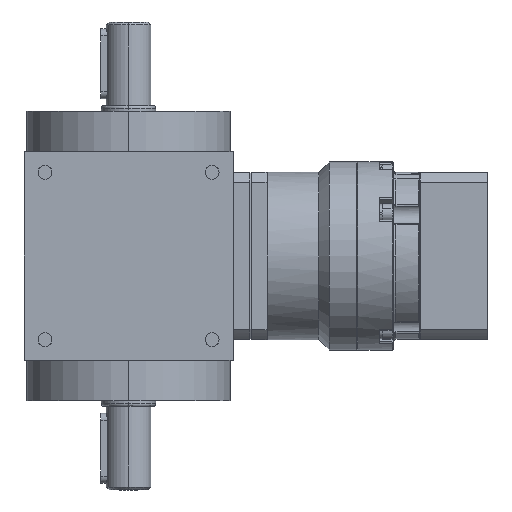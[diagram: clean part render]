
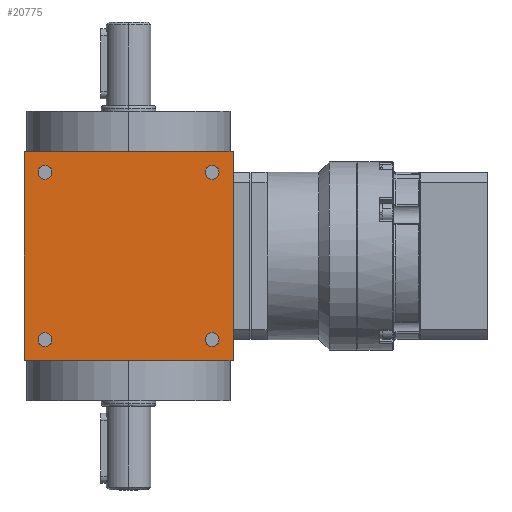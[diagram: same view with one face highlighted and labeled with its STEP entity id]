
A CAD part, left-side view. The second image highlights one B-rep face of the part: STEP entity #20775.
In plain terms, the highlighted planar face has unit normal (-1, 0, 0).
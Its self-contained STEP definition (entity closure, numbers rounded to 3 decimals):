
#453 = DIRECTION ( 'NONE',  ( 0., 0., 1. ) ) ;
#529 = DIRECTION ( 'NONE',  ( 0., -1., 0. ) ) ;
#769 = EDGE_CURVE ( 'NONE', #32938, #11990, #22045, .T. ) ;
#1215 = FACE_BOUND ( 'NONE', #24431, .T. ) ;
#1546 = EDGE_LOOP ( 'NONE', ( #19009, #24279 ) ) ;
#1626 = CIRCLE ( 'NONE', #41033, 2.5 ) ;
#1652 = CARTESIAN_POINT ( 'NONE',  ( -37.5, 30., 30. ) ) ;
#2067 = DIRECTION ( 'NONE',  ( 1., 0., 0. ) ) ;
#2099 = FACE_BOUND ( 'NONE', #1546, .T. ) ;
#2261 = EDGE_LOOP ( 'NONE', ( #30410, #24052 ) ) ;
#2318 = AXIS2_PLACEMENT_3D ( 'NONE', #34526, #44566, #26787 ) ;
#2673 = VERTEX_POINT ( 'NONE', #16382 ) ;
#2939 = DIRECTION ( 'NONE',  ( 1., 0., 0. ) ) ;
#3296 = EDGE_CURVE ( 'NONE', #32416, #38630, #6183, .T. ) ;
#3693 = CARTESIAN_POINT ( 'NONE',  ( -37.5, -30., 27.5 ) ) ;
#4215 = CARTESIAN_POINT ( 'NONE',  ( -37.5, -37.5, -37.5 ) ) ;
#4234 = CARTESIAN_POINT ( 'NONE',  ( -37.5, -30., -32.5 ) ) ;
#4528 = CARTESIAN_POINT ( 'NONE',  ( -37.5, 37.5, 37.5 ) ) ;
#4827 = CARTESIAN_POINT ( 'NONE',  ( -37.5, 30., -32.5 ) ) ;
#4831 = CARTESIAN_POINT ( 'NONE',  ( -37.5, 30., 32.5 ) ) ;
#5214 = CARTESIAN_POINT ( 'NONE',  ( -37.5, 30., -30. ) ) ;
#5336 = DIRECTION ( 'NONE',  ( 1., 0., 0. ) ) ;
#5460 = DIRECTION ( 'NONE',  ( 0., 0., 1. ) ) ;
#5991 = DIRECTION ( 'NONE',  ( 1., 0., 0. ) ) ;
#6183 = CIRCLE ( 'NONE', #36848, 2.5 ) ;
#6912 = CIRCLE ( 'NONE', #12000, 2.5 ) ;
#7161 = CARTESIAN_POINT ( 'NONE',  ( -37.5, 0., 37.5 ) ) ;
#7799 = ORIENTED_EDGE ( 'NONE', *, *, #22491, .F. ) ;
#8216 = VERTEX_POINT ( 'NONE', #37897 ) ;
#8297 = DIRECTION ( 'NONE',  ( 0., 0., 1. ) ) ;
#8676 = EDGE_CURVE ( 'NONE', #22706, #12740, #23694, .T. ) ;
#9739 = CARTESIAN_POINT ( 'NONE',  ( -37.5, -30., -27.5 ) ) ;
#10799 = CARTESIAN_POINT ( 'NONE',  ( -37.5, 0., -37.5 ) ) ;
#11219 = AXIS2_PLACEMENT_3D ( 'NONE', #29330, #36183, #8297 ) ;
#11425 = EDGE_CURVE ( 'NONE', #12191, #16800, #15149, .T. ) ;
#11990 = VERTEX_POINT ( 'NONE', #9739 ) ;
#12000 = AXIS2_PLACEMENT_3D ( 'NONE', #20583, #2067, #19672 ) ;
#12191 = VERTEX_POINT ( 'NONE', #32776 ) ;
#12226 = EDGE_CURVE ( 'NONE', #11990, #32938, #45139, .T. ) ;
#12638 = EDGE_CURVE ( 'NONE', #2673, #30292, #1626, .T. ) ;
#12740 = VERTEX_POINT ( 'NONE', #45181 ) ;
#13371 = EDGE_CURVE ( 'NONE', #8216, #12740, #35535, .T. ) ;
#13987 = LINE ( 'NONE', #10799, #33017 ) ;
#15149 = CIRCLE ( 'NONE', #42154, 2.5 ) ;
#16032 = CARTESIAN_POINT ( 'NONE',  ( -37.5, 37.5, -37.5 ) ) ;
#16382 = CARTESIAN_POINT ( 'NONE',  ( -37.5, -30., 32.5 ) ) ;
#16800 = VERTEX_POINT ( 'NONE', #4827 ) ;
#16889 = CARTESIAN_POINT ( 'NONE',  ( -37.5, 30., -30. ) ) ;
#18611 = DIRECTION ( 'NONE',  ( 0., 0., 1. ) ) ;
#18703 = EDGE_LOOP ( 'NONE', ( #7799, #31541, #33302, #28489 ) ) ;
#19009 = ORIENTED_EDGE ( 'NONE', *, *, #20820, .T. ) ;
#19399 = DIRECTION ( 'NONE',  ( 0., 0., 1. ) ) ;
#19617 = AXIS2_PLACEMENT_3D ( 'NONE', #22498, #5336, #18611 ) ;
#19672 = DIRECTION ( 'NONE',  ( 0., 0., 1. ) ) ;
#20583 = CARTESIAN_POINT ( 'NONE',  ( -37.5, -30., 30. ) ) ;
#20775 = ADVANCED_FACE ( 'NONE', ( #40258, #1215, #26583, #22928, #2099 ), #43915, .T. ) ;
#20820 = EDGE_CURVE ( 'NONE', #38630, #32416, #30211, .T. ) ;
#21374 = EDGE_LOOP ( 'NONE', ( #30777, #40376 ) ) ;
#21380 = CIRCLE ( 'NONE', #33759, 2.5 ) ;
#22026 = DIRECTION ( 'NONE',  ( 0., 0., 1. ) ) ;
#22045 = CIRCLE ( 'NONE', #2318, 2.5 ) ;
#22491 = EDGE_CURVE ( 'NONE', #29564, #22706, #42709, .T. ) ;
#22498 = CARTESIAN_POINT ( 'NONE',  ( -37.5, -30., -30. ) ) ;
#22706 = VERTEX_POINT ( 'NONE', #4528 ) ;
#22928 = FACE_BOUND ( 'NONE', #2261, .T. ) ;
#23694 = LINE ( 'NONE', #7161, #32184 ) ;
#24052 = ORIENTED_EDGE ( 'NONE', *, *, #769, .T. ) ;
#24279 = ORIENTED_EDGE ( 'NONE', *, *, #3296, .T. ) ;
#24431 = EDGE_LOOP ( 'NONE', ( #41608, #34249 ) ) ;
#25345 = CARTESIAN_POINT ( 'NONE',  ( -37.5, 30., 27.5 ) ) ;
#26583 = FACE_BOUND ( 'NONE', #21374, .T. ) ;
#26753 = EDGE_CURVE ( 'NONE', #30292, #2673, #6912, .T. ) ;
#26787 = DIRECTION ( 'NONE',  ( 0., 0., 1. ) ) ;
#27191 = DIRECTION ( 'NONE',  ( 0., 0., 1. ) ) ;
#27943 = DIRECTION ( 'NONE',  ( 0., -1., 0. ) ) ;
#28489 = ORIENTED_EDGE ( 'NONE', *, *, #8676, .F. ) ;
#29330 = CARTESIAN_POINT ( 'NONE',  ( -37.5, 37.5, -37.5 ) ) ;
#29441 = VECTOR ( 'NONE', #32115, 1000. ) ;
#29564 = VERTEX_POINT ( 'NONE', #16032 ) ;
#29928 = DIRECTION ( 'NONE',  ( 1., 0., 0. ) ) ;
#29983 = EDGE_CURVE ( 'NONE', #16800, #12191, #21380, .T. ) ;
#30211 = CIRCLE ( 'NONE', #42591, 2.5 ) ;
#30222 = EDGE_CURVE ( 'NONE', #29564, #8216, #13987, .T. ) ;
#30292 = VERTEX_POINT ( 'NONE', #3693 ) ;
#30392 = CARTESIAN_POINT ( 'NONE',  ( -37.5, -30., 30. ) ) ;
#30410 = ORIENTED_EDGE ( 'NONE', *, *, #12226, .T. ) ;
#30777 = ORIENTED_EDGE ( 'NONE', *, *, #11425, .T. ) ;
#31071 = VECTOR ( 'NONE', #453, 1000. ) ;
#31541 = ORIENTED_EDGE ( 'NONE', *, *, #30222, .T. ) ;
#32115 = DIRECTION ( 'NONE',  ( 0., 0., 1. ) ) ;
#32184 = VECTOR ( 'NONE', #529, 1000. ) ;
#32416 = VERTEX_POINT ( 'NONE', #25345 ) ;
#32776 = CARTESIAN_POINT ( 'NONE',  ( -37.5, 30., -27.5 ) ) ;
#32938 = VERTEX_POINT ( 'NONE', #4234 ) ;
#33017 = VECTOR ( 'NONE', #27943, 1000. ) ;
#33302 = ORIENTED_EDGE ( 'NONE', *, *, #13371, .T. ) ;
#33651 = CARTESIAN_POINT ( 'NONE',  ( -37.5, 30., 30. ) ) ;
#33759 = AXIS2_PLACEMENT_3D ( 'NONE', #16889, #2939, #27191 ) ;
#34249 = ORIENTED_EDGE ( 'NONE', *, *, #26753, .T. ) ;
#34526 = CARTESIAN_POINT ( 'NONE',  ( -37.5, -30., -30. ) ) ;
#35535 = LINE ( 'NONE', #4215, #29441 ) ;
#36183 = DIRECTION ( 'NONE',  ( -1., 0., 0. ) ) ;
#36848 = AXIS2_PLACEMENT_3D ( 'NONE', #1652, #39366, #22026 ) ;
#37897 = CARTESIAN_POINT ( 'NONE',  ( -37.5, -37.5, -37.5 ) ) ;
#38389 = CARTESIAN_POINT ( 'NONE',  ( -37.5, 37.5, -37.5 ) ) ;
#38630 = VERTEX_POINT ( 'NONE', #4831 ) ;
#39366 = DIRECTION ( 'NONE',  ( 1., 0., 0. ) ) ;
#40258 = FACE_OUTER_BOUND ( 'NONE', #18703, .T. ) ;
#40376 = ORIENTED_EDGE ( 'NONE', *, *, #29983, .T. ) ;
#40639 = DIRECTION ( 'NONE',  ( 1., 0., 0. ) ) ;
#41033 = AXIS2_PLACEMENT_3D ( 'NONE', #30392, #29928, #5460 ) ;
#41402 = DIRECTION ( 'NONE',  ( 0., 0., 1. ) ) ;
#41608 = ORIENTED_EDGE ( 'NONE', *, *, #12638, .T. ) ;
#42154 = AXIS2_PLACEMENT_3D ( 'NONE', #5214, #40639, #19399 ) ;
#42591 = AXIS2_PLACEMENT_3D ( 'NONE', #33651, #5991, #41402 ) ;
#42709 = LINE ( 'NONE', #38389, #31071 ) ;
#43915 = PLANE ( 'NONE',  #11219 ) ;
#44566 = DIRECTION ( 'NONE',  ( 1., 0., 0. ) ) ;
#45139 = CIRCLE ( 'NONE', #19617, 2.5 ) ;
#45181 = CARTESIAN_POINT ( 'NONE',  ( -37.5, -37.5, 37.5 ) ) ;
